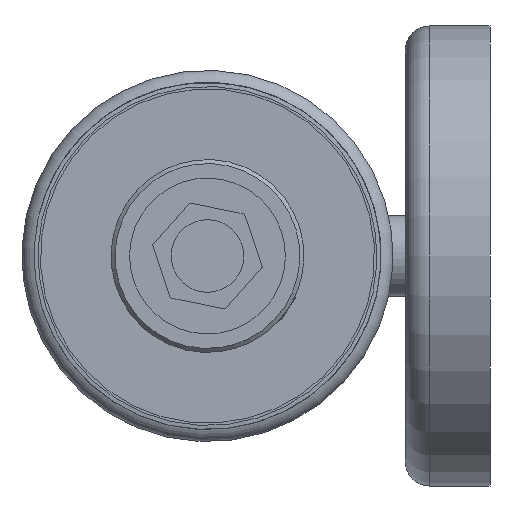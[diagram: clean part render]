
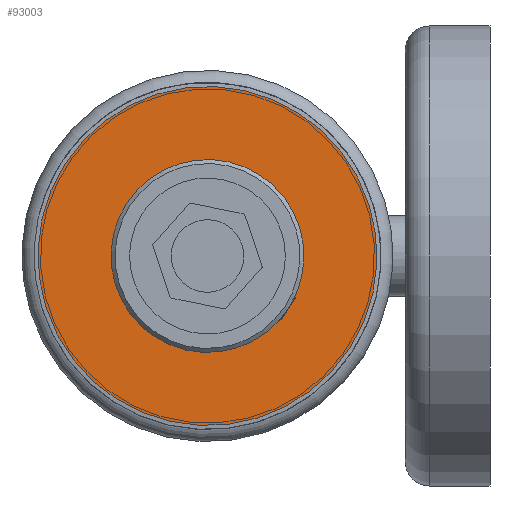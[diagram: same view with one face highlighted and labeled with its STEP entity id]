
A CAD part, left-side view. The second image highlights one B-rep face of the part: STEP entity #93003.
In plain terms, the highlighted planar face has unit normal (-1, 0, 0).
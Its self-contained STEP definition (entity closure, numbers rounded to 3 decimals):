
#3627 = CARTESIAN_POINT ( 'NONE',  ( -152.7, 35., 0. ) ) ;
#4082 = DIRECTION ( 'NONE',  ( 1., 0., 0. ) ) ;
#11074 = AXIS2_PLACEMENT_3D ( 'NONE', #57537, #50752, #44950 ) ;
#12122 = PLANE ( 'NONE',  #11074 ) ;
#26648 = FACE_OUTER_BOUND ( 'NONE', #89149, .T. ) ;
#29182 = AXIS2_PLACEMENT_3D ( 'NONE', #63274, #75899, #65164 ) ;
#34803 = VERTEX_POINT ( 'NONE', #56000 ) ;
#42555 = FACE_BOUND ( 'NONE', #58745, .T. ) ;
#44950 = DIRECTION ( 'NONE',  ( 0., 0.976, 0.218 ) ) ;
#47574 = AXIS2_PLACEMENT_3D ( 'NONE', #3627, #4082, #48037 ) ;
#48037 = DIRECTION ( 'NONE',  ( 0., 0.976, 0.218 ) ) ;
#50752 = DIRECTION ( 'NONE',  ( 1., 0., 0. ) ) ;
#52089 = CARTESIAN_POINT ( 'NONE',  ( -152.7, 55.493, 4.587 ) ) ;
#53785 = ORIENTED_EDGE ( 'NONE', *, *, #87154, .F. ) ;
#56000 = CARTESIAN_POINT ( 'NONE',  ( -152.7, 41.343, 1.42 ) ) ;
#57537 = CARTESIAN_POINT ( 'NONE',  ( -152.7, 30.413, 20.493 ) ) ;
#58745 = EDGE_LOOP ( 'NONE', ( #82719 ) ) ;
#63274 = CARTESIAN_POINT ( 'NONE',  ( -152.7, 35., 0. ) ) ;
#65164 = DIRECTION ( 'NONE',  ( 0., 0.976, 0.218 ) ) ;
#66143 = CIRCLE ( 'NONE', #29182, 21. ) ;
#75296 = CIRCLE ( 'NONE', #47574, 6.5 ) ;
#75899 = DIRECTION ( 'NONE',  ( 1., 0., 0. ) ) ;
#82719 = ORIENTED_EDGE ( 'NONE', *, *, #85712, .T. ) ;
#85712 = EDGE_CURVE ( 'NONE', #34803, #34803, #75296, .T. ) ;
#87154 = EDGE_CURVE ( 'NONE', #87362, #87362, #66143, .T. ) ;
#87362 = VERTEX_POINT ( 'NONE', #52089 ) ;
#89149 = EDGE_LOOP ( 'NONE', ( #53785 ) ) ;
#93003 = ADVANCED_FACE ( 'NONE', ( #26648, #42555 ), #12122, .F. ) ;
